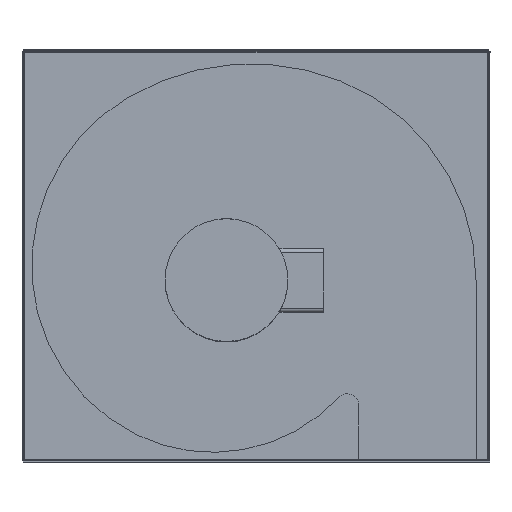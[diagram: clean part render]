
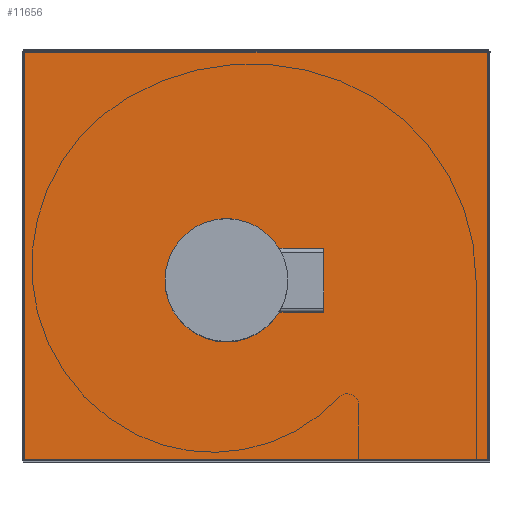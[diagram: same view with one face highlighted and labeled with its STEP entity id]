
A CAD part, top view. The second image highlights one B-rep face of the part: STEP entity #11656.
In plain terms, the highlighted planar face has unit normal (0, 0, 1).
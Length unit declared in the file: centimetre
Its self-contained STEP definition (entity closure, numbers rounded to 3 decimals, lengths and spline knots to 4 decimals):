
#306=FACE_BOUND('',#2002,.T.);
#553=PLANE('',#12185);
#606=CIRCLE('',#11919,7.495);
#663=CIRCLE('',#12186,0.25);
#664=CIRCLE('',#12187,0.25);
#665=CIRCLE('',#12188,0.25);
#666=CIRCLE('',#12189,0.25);
#1349=FACE_OUTER_BOUND('',#2001,.T.);
#2001=EDGE_LOOP('',(#10275,#10276,#10277,#10278,#10279,#10280,#10281,#10282));
#2002=EDGE_LOOP('',(#10283));
#2862=LINE('',#22345,#3719);
#2863=LINE('',#22349,#3720);
#2864=LINE('',#22353,#3721);
#2865=LINE('',#22356,#3722);
#3719=VECTOR('',#13863,49.672);
#3720=VECTOR('',#13866,56.472);
#3721=VECTOR('',#13869,49.672);
#3722=VECTOR('',#13872,56.472);
#4938=VERTEX_POINT('',#18062);
#5495=VERTEX_POINT('',#22341);
#5496=VERTEX_POINT('',#22342);
#5497=VERTEX_POINT('',#22344);
#5498=VERTEX_POINT('',#22346);
#5499=VERTEX_POINT('',#22348);
#5500=VERTEX_POINT('',#22350);
#5501=VERTEX_POINT('',#22352);
#5502=VERTEX_POINT('',#22354);
#6306=EDGE_CURVE('',#4938,#4938,#606,.T.);
#7129=EDGE_CURVE('',#5495,#5496,#663,.T.);
#7130=EDGE_CURVE('',#5496,#5497,#2862,.T.);
#7131=EDGE_CURVE('',#5497,#5498,#664,.T.);
#7132=EDGE_CURVE('',#5498,#5499,#2863,.T.);
#7133=EDGE_CURVE('',#5499,#5500,#665,.T.);
#7134=EDGE_CURVE('',#5500,#5501,#2864,.T.);
#7135=EDGE_CURVE('',#5501,#5502,#666,.T.);
#7136=EDGE_CURVE('',#5502,#5495,#2865,.T.);
#10275=ORIENTED_EDGE('',*,*,#7129,.T.);
#10276=ORIENTED_EDGE('',*,*,#7130,.T.);
#10277=ORIENTED_EDGE('',*,*,#7131,.T.);
#10278=ORIENTED_EDGE('',*,*,#7132,.T.);
#10279=ORIENTED_EDGE('',*,*,#7133,.T.);
#10280=ORIENTED_EDGE('',*,*,#7134,.T.);
#10281=ORIENTED_EDGE('',*,*,#7135,.T.);
#10282=ORIENTED_EDGE('',*,*,#7136,.T.);
#10283=ORIENTED_EDGE('',*,*,#6306,.T.);
#11656=ADVANCED_FACE('',(#1349,#306),#553,.F.);
#11919=AXIS2_PLACEMENT_3D('',#18063,#12930,#12931);
#12185=AXIS2_PLACEMENT_3D('',#22340,#13859,#13860);
#12186=AXIS2_PLACEMENT_3D('',#22343,#13861,#13862);
#12187=AXIS2_PLACEMENT_3D('',#22347,#13864,#13865);
#12188=AXIS2_PLACEMENT_3D('',#22351,#13867,#13868);
#12189=AXIS2_PLACEMENT_3D('',#22355,#13870,#13871);
#12930=DIRECTION('center_axis',(0.,0.,
-1.));
#12931=DIRECTION('ref_axis',(-1.,0.,0.));
#13859=DIRECTION('center_axis',(0.,0.,
-1.));
#13860=DIRECTION('ref_axis',(-1.,0.,0.));
#13861=DIRECTION('center_axis',(0.,0.,
-1.));
#13862=DIRECTION('ref_axis',(1.,0.,0.));
#13863=DIRECTION('',(0.,-1.,0.));
#13864=DIRECTION('center_axis',(0.,0.,
-1.));
#13865=DIRECTION('ref_axis',(1.,0.,0.));
#13866=DIRECTION('',(1.,0.,0.));
#13867=DIRECTION('center_axis',(0.,0.,
-1.));
#13868=DIRECTION('ref_axis',(1.,0.,0.));
#13869=DIRECTION('',(0.,1.,0.));
#13870=DIRECTION('center_axis',(0.,0.,
-1.));
#13871=DIRECTION('ref_axis',(1.,0.,0.));
#13872=DIRECTION('',(-1.,0.,0.));
#18062=CARTESIAN_POINT('',(32.445,22.15,11.3));
#18063=CARTESIAN_POINT('Origin',(24.95,22.15,11.3));
#22340=CARTESIAN_POINT('Origin',(32.0679,4.9658,11.3));
#22341=CARTESIAN_POINT('',(0.314,50.,11.3));
#22342=CARTESIAN_POINT('',(0.3,49.986,11.3));
#22343=CARTESIAN_POINT('Origin',(0.1304,50.1696,11.3));
#22344=CARTESIAN_POINT('',(0.3,0.314,11.3));
#22345=CARTESIAN_POINT('',(0.3,12.65,11.3));
#22346=CARTESIAN_POINT('',(0.314,0.3,11.3));
#22347=CARTESIAN_POINT('Origin',(0.1304,0.1304,11.3));
#22348=CARTESIAN_POINT('',(56.786,0.3,11.3));
#22349=CARTESIAN_POINT('',(42.75,0.3,11.3));
#22350=CARTESIAN_POINT('',(56.8,0.314,11.3));
#22351=CARTESIAN_POINT('Origin',(56.9696,0.1304,11.3));
#22352=CARTESIAN_POINT('',(56.8,49.986,11.3));
#22353=CARTESIAN_POINT('',(56.8,37.575,11.3));
#22354=CARTESIAN_POINT('',(56.786,50.,11.3));
#22355=CARTESIAN_POINT('Origin',(56.9696,50.1696,11.3));
#22356=CARTESIAN_POINT('',(14.425,50.,11.3));
